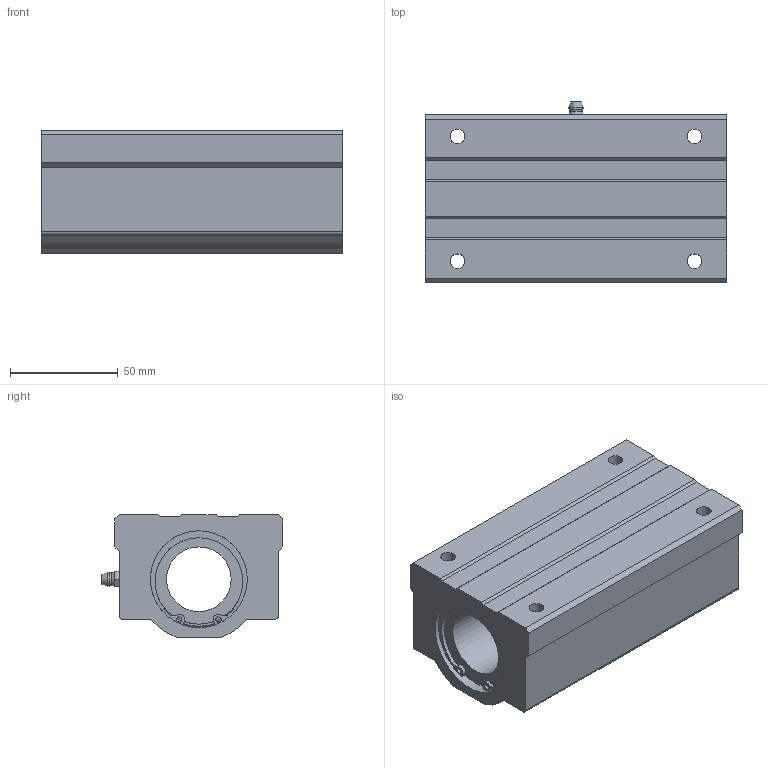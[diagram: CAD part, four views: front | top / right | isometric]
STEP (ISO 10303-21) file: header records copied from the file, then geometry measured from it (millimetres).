
FILE_DESCRIPTION((''),'2;1');
FILE_NAME('D:\製品 (図面)\カタログ用3D\リニアベアリング関連\STEP形式\LHW-B\LHW30B.stp','2010-05-21T10:51:20',('Tsuchiya'),(''),'Autodesk Inventor 10','Autodesk Inventor 10','');
FILE_SCHEMA(('AUTOMOTIVE_DESIGN { 1 0 10303 214 1 1 1 1 }'));
Length unit declared in the file: millimetre
Products named in the file (1): LHW30B
Bounding box: 140 x 84.4 x 57 mm (x, y, z)
Volume: 436316.6 mm3; surface area: 67861.8 mm2
Topology: 1 solids, 7 shells, 126 faces, 333 edges, 209 vertices
Faces by surface type: plane 50, bspline 40, cylinder 25, cone 7, torus 2, sphere 2
Full cylindrical faces by diameter (mm): 2.5 x2, 30 x2, 41.7 x2, 43 x2, 45 x8
Entity records: 3965 total; most frequent: CARTESIAN_POINT 1101, DIRECTION 590, ORIENTED_EDGE 544, EDGE_CURVE 272, AXIS2_PLACEMENT_3D 243, EDGE_LOOP 196, VERTEX_POINT 188, CIRCLE 156
